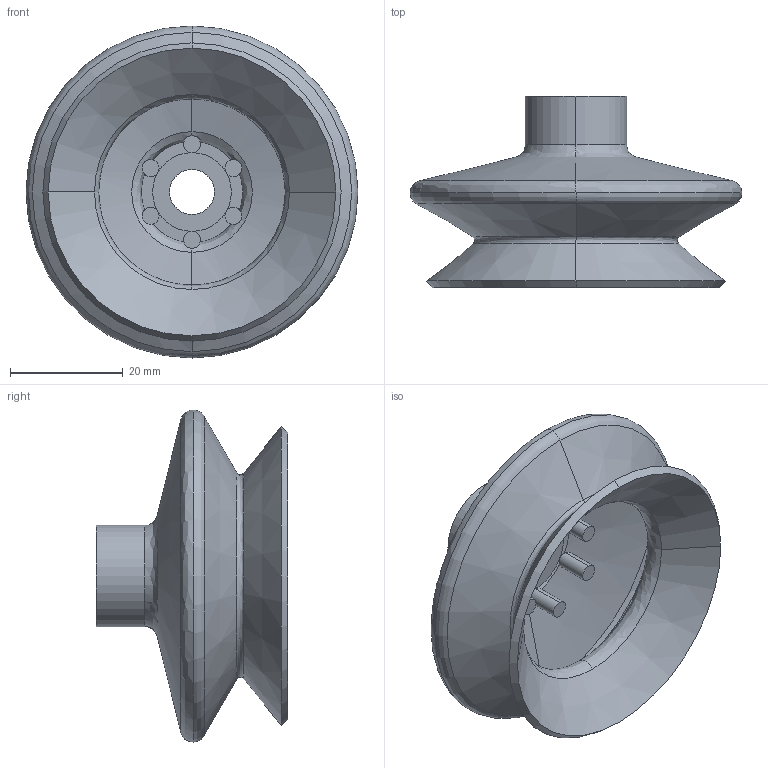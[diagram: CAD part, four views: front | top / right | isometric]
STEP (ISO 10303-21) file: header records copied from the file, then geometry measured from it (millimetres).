
FILE_DESCRIPTION (( 'STEP AP214' ), '1' );
FILE_NAME ('VS2-SA53.STEP', '2019-11-13T08:18:23', ( '微软用户' ), ( '微软中国' ), 'SwSTEP 2.0', 'SolidWorks 2016', '' );
FILE_SCHEMA (( 'AUTOMOTIVE_DESIGN' ));
Length unit declared in the file: millimetre
Products named in the file (1): VS2-SA53
Bounding box: 59 x 34 x 59 mm (x, y, z)
Volume: 13600.2 mm3; surface area: 14407.2 mm2
Topology: 1 solids, 1 shells, 52 faces, 136 edges, 78 vertices
Faces by surface type: cylinder 16, cone 14, bspline 12, plane 8, torus 2
Entity records: 1890 total; most frequent: CARTESIAN_POINT 745, ORIENTED_EDGE 240, DIRECTION 236, EDGE_CURVE 120, AXIS2_PLACEMENT_3D 103, VERTEX_POINT 70, CIRCLE 62, EDGE_LOOP 54
